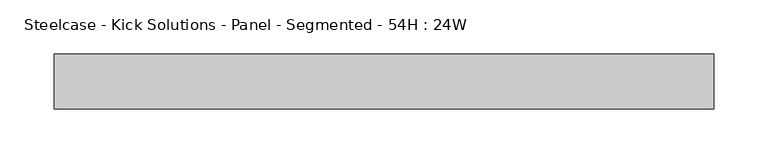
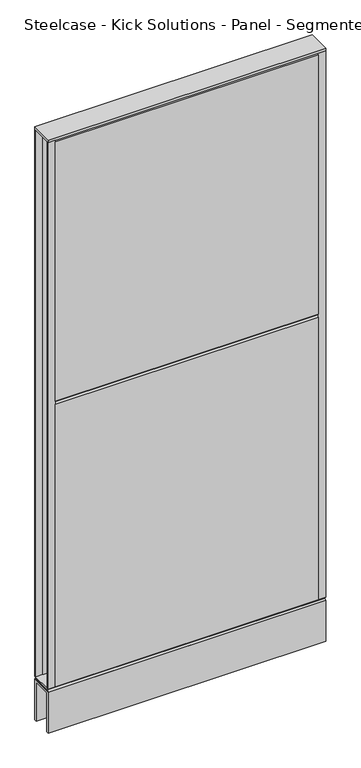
"""IFC4 building model written with IfcOpenShell, lengths in millimetres: furniture geometry, Steelcase - Kick Solutions - Panel - Segmented - 54H : 24W."""

from ifc_helpers import new_model, si_unit, frame, origin, place, context, project, spatial, polyline, outline, extrude, source, transform, mapped, element, save


def steelcase_kick_solutions_panel_segmented_54h_24w_f301652f(model_context):
    return source(origin(), model_context, "Body", "SweptSolid", [
        extrude(outline(polyline([(1.5e-06, 101.600003), (-3.175, 101.600003), (-3.175, 1371.6), (1.5e-06, 1368.5188448), (1.5e-06, 101.600003)])), frame((15.8749996, 0.0, 0.0), z_axis=(1.0, 0.0, 0.0), x_axis=(0.0, 1.0, 0.0)), (0.0, 0.0, 1.0), 577.8500008),
        extrude(outline(polyline([(-50.8000015, 765.0811552), (-50.8000015, 1368.5188448), (-47.625, 1371.6), (-47.625, 762.0), (-50.8000015, 765.0811552)])), frame((15.8749996, 0.0, 0.0), z_axis=(1.0, 0.0, 0.0), x_axis=(0.0, 1.0, 0.0)), (0.0, 0.0, 1.0), 577.8500008),
        extrude(outline(polyline([(-50.8000015, 101.600003), (-50.8000015, 758.9188448), (-47.625, 762.0), (-47.625, 101.600003), (-50.8000015, 101.600003)])), frame((15.8749996, 0.0, 0.0), z_axis=(1.0, 0.0, 0.0), x_axis=(0.0, 1.0, 0.0)), (0.0, 0.0, 1.0), 577.8500008),
        extrude(outline(polyline([(609.6, -3.1750015), (593.7250004, -3.1750015), (593.7250004, 0.0), (609.6, 0.0), (609.6, -3.1750015)])), frame((0.0, 0.0, 101.7169049), z_axis=(0.0, 0.0, 1.0), x_axis=(1.0, 0.0, 0.0)), (0.0, 0.0, 1.0), 1269.999997),
        extrude(outline(polyline([(15.8749996, -50.8000015), (0.0, -50.8000015), (0.0, -47.625), (15.8749996, -47.625), (15.8749996, -50.8000015)])), frame((0.0, 0.0, 101.7169049), z_axis=(0.0, 0.0, 1.0), x_axis=(1.0, 0.0, 0.0)), (0.0, 0.0, 1.0), 1269.999997),
        extrude(outline(polyline([(-50.7995075, 101.7169049), (-0.000494, 101.7169049), (-3.0583512, 98.5421458), (-47.7416503, 98.5421458), (-50.7995075, 101.7169049)])), frame((0.0, 0.0, 0.0), z_axis=(1.0, 0.0, 0.0), x_axis=(0.0, 1.0, 0.0)), (0.0, 0.0, 1.0), 609.6),
        extrude(outline(polyline([(609.6, 0.0), (609.6, -50.8000015), (0.0, -50.8000015), (0.0, 0.0), (609.6, 0.0)])), frame((0.0, 0.0, 1371.7169018), z_axis=(0.0, 0.0, 1.0), x_axis=(1.0, 0.0, 0.0)), (0.0, 0.0, 1.0), 6.35),
        extrude(outline(polyline([(15.8749996, -3.1750015), (0.0, -3.1750015), (0.0, 0.0), (15.8749996, 0.0), (15.8749996, -3.1750015)])), frame((0.0, 0.0, 101.7169049), z_axis=(0.0, 0.0, 1.0), x_axis=(1.0, 0.0, 0.0)), (0.0, 0.0, 1.0), 1269.999997),
        extrude(outline(polyline([(609.6, -50.8000015), (593.7250004, -50.8000015), (593.7250004, -47.625), (609.6, -47.625), (609.6, -50.8000015)])), frame((0.0, 0.0, 101.7169049), z_axis=(0.0, 0.0, 1.0), x_axis=(1.0, 0.0, 0.0)), (0.0, 0.0, 1.0), 1269.999997),
        extrude(outline(polyline([(-50.8000015, 95.3668927), (-47.6247484, 98.5421458), (-3.1752531, 98.5421458), (0.0, 95.3668927), (-50.8000015, 95.3668927)])), frame((0.0, 0.0, 0.0), z_axis=(1.0, 0.0, 0.0), x_axis=(0.0, 1.0, 0.0)), (0.0, 0.0, 1.0), 609.6),
        extrude(outline(polyline([(0.0, 0.0), (-5.08, 0.0), (-5.08, 90.2869018), (-45.7200015, 90.2869018), (-45.7200015, 0.0), (-50.8000015, 0.0), (-50.8000015, 95.3669018), (0.0, 95.3669018), (0.0, 0.0)])), frame((0.0, 0.0, 0.0), z_axis=(1.0, 0.0, 0.0), x_axis=(0.0, 1.0, 0.0)), (0.0, 0.0, 1.0), 609.6),
    ])


if __name__ == "__main__":
    model = new_model("IFC4")
    model_context = context("Model", 3, world=origin())
    ifc_project = project(units=[si_unit("LENGTHUNIT", "METRE", prefix="MILLI")], contexts=[model_context])
    site = spatial("IfcSite", under=ifc_project)
    building = spatial("IfcBuilding", under=site)
    placement = place(None, origin())
    steelcase_kick_solutions_panel_segmented_54h_24w_shape = steelcase_kick_solutions_panel_segmented_54h_24w_f301652f(model_context)
    element("IfcFurniture", 1, ObjectType="Steelcase - Kick Solutions - Panel - Segmented - 54H : 24W", at=placement, inside=building, context=model_context, shape_type="MappedRepresentation", body=[
        mapped(steelcase_kick_solutions_panel_segmented_54h_24w_shape, transform((0.0, 0.0, 0.0), x_axis=(1.0, 0.0, 0.0), y_axis=(0.0, 1.0, 0.0), z_axis=(0.0, 0.0, 1.0))),
    ])
    save(model, "model.ifc")
